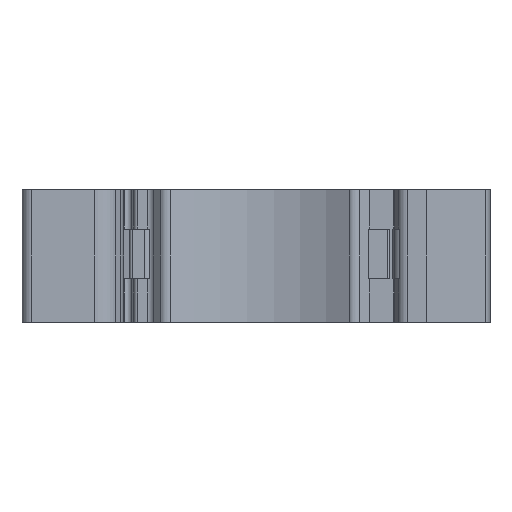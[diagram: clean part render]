
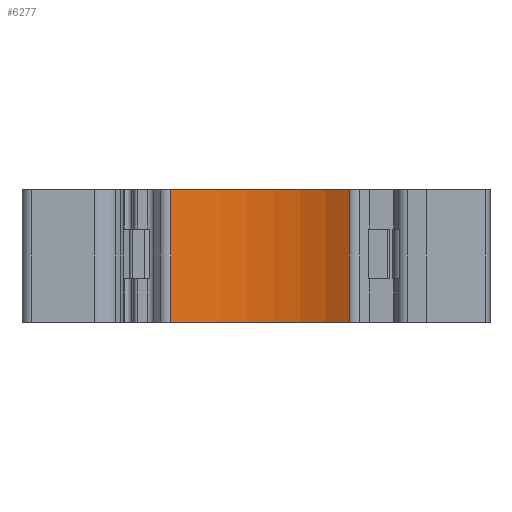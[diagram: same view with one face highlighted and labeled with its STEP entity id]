
A CAD part, front view. The second image highlights one B-rep face of the part: STEP entity #6277.
In plain terms, the highlighted cylindrical face has radius 20 mm (diameter 40 mm), a partial arc.
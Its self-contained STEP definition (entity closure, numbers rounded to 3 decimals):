
#663=CARTESIAN_POINT('',(27.694,-71.809,16.));
#664=DIRECTION('',(0.,0.,-1.));
#665=DIRECTION('',(-0.539,0.843,0.));
#666=AXIS2_PLACEMENT_3D('',#663,#664,#665);
#1076=CARTESIAN_POINT('',(27.694,-71.809,0.));
#1077=DIRECTION('',(0.,0.,1.));
#1078=DIRECTION('',(0.539,0.843,0.));
#1079=AXIS2_PLACEMENT_3D('',#1076,#1077,#1078);
#1924=DIRECTION('',(0.,0.,1.));
#1925=VECTOR('',#1924,16.);
#1926=CARTESIAN_POINT('',(38.467,-54.959,0.));
#1927=LINE('',#1926,#1925);
#1928=DIRECTION('',(0.,0.,-1.));
#1929=VECTOR('',#1928,16.);
#1930=CARTESIAN_POINT('',(16.92,-54.959,16.));
#1931=LINE('',#1930,#1929);
#3930=CARTESIAN_POINT('',(38.467,-54.959,0.));
#3931=CARTESIAN_POINT('',(16.92,-54.959,0.));
#3932=VERTEX_POINT('',#3930);
#3933=VERTEX_POINT('',#3931);
#4056=CARTESIAN_POINT('',(16.92,-54.959,16.));
#4057=CARTESIAN_POINT('',(38.467,-54.959,16.));
#4058=VERTEX_POINT('',#4056);
#4059=VERTEX_POINT('',#4057);
#6266=CARTESIAN_POINT('',(27.694,-71.809,0.));
#6267=DIRECTION('',(0.,0.,1.));
#6268=DIRECTION('',(1.,0.,0.));
#6269=AXIS2_PLACEMENT_3D('',#6266,#6267,#6268);
#6270=CYLINDRICAL_SURFACE('',#6269,20.);
#6271=ORIENTED_EDGE('',*,*,#6258,.F.);
#6272=ORIENTED_EDGE('',*,*,#4953,.T.);
#6273=ORIENTED_EDGE('',*,*,#4722,.F.);
#6274=ORIENTED_EDGE('',*,*,#4709,.T.);
#6275=EDGE_LOOP('',(#6271,#6272,#6273,#6274));
#6276=FACE_OUTER_BOUND('',#6275,.F.);
#6277=ADVANCED_FACE('',(#6276),#6270,.F.);
#667=CIRCLE('',#666,20.);
#1080=CIRCLE('',#1079,20.);
#4709=EDGE_CURVE('',#4058,#4059,#667,.T.);
#4722=EDGE_CURVE('',#4058,#3933,#1931,.T.);
#4953=EDGE_CURVE('',#3932,#3933,#1080,.T.);
#6258=EDGE_CURVE('',#3932,#4059,#1927,.T.);
